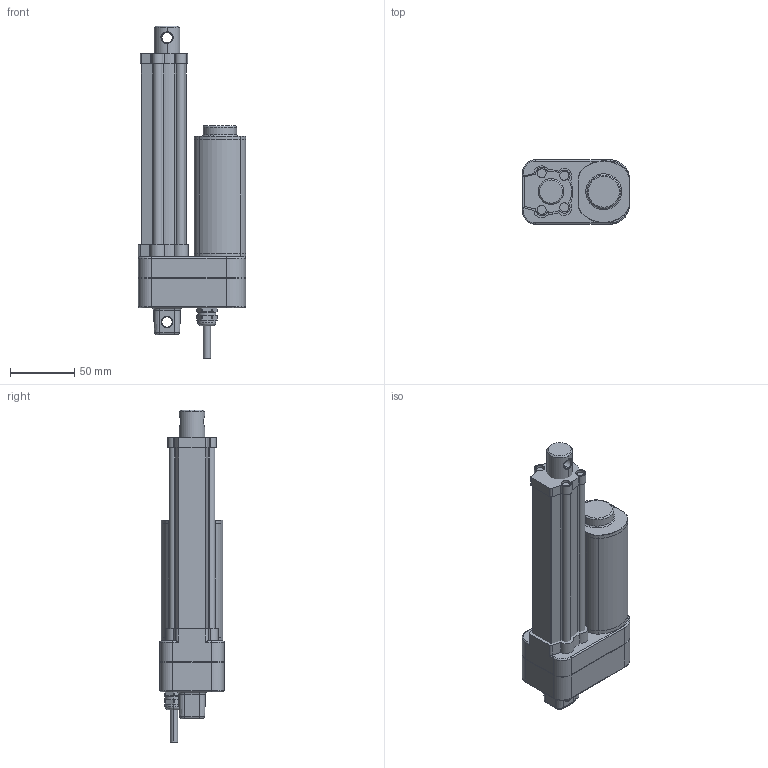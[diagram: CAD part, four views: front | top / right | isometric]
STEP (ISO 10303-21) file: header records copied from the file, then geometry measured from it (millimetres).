
FILE_DESCRIPTION((''),'2;1');
FILE_NAME('LINACT-10-100mm.stp','2022-05-13T13:44:48',('Linact'),('Linear Actuators South Africa'),'','','');
FILE_SCHEMA(('CONFIG_CONTROL_DESIGN'));
Length unit declared in the file: millimetre
Products named in the file (13): JC35W2QIANDUANGAI-0630_AF0_1_1; JC35W2JIKE-0630_AF0_1_1; JC35W2DIANJIDINGZI-0630_AF0_ASM_ASM; JC35W2HOUDUANGAI-0630_AF0_1_1; JC35W2DIANJI-0630_AF0_ASM_1_ASM_ASM; JC35W2SHANGKE-0630_AF0_52_1; JC35W2XIAKE-0630_AF0_24_1; FANGSHUIJIETOU_1_1; JC35W2-100-220-0630_ASM_13_ASM__ASM; W2WAIGUAN-0630_4; W2WAIGUANDUANGAI-0630_9; W2NEIGUAN-0630_3; JC35W5-50-160_ASM_1_ASM
Assembly tree (12 placements, depth 5):
  JC35W5-50-160_ASM_1_ASM
    JC35W2-100-220-0630_ASM_13_ASM__ASM
      JC35W2DIANJI-0630_AF0_ASM_1_ASM_ASM
        JC35W2QIANDUANGAI-0630_AF0_1_1
        JC35W2DIANJIDINGZI-0630_AF0_ASM_ASM
          JC35W2JIKE-0630_AF0_1_1
        JC35W2HOUDUANGAI-0630_AF0_1_1
      JC35W2SHANGKE-0630_AF0_52_1
      JC35W2XIAKE-0630_AF0_24_1
      FANGSHUIJIETOU_1_1
    W2WAIGUAN-0630_4
    W2WAIGUANDUANGAI-0630_9
    W2NEIGUAN-0630_3
Bounding box: 83.2 x 50 x 258 mm (x, y, z)
Volume: 521109 mm3; surface area: 86779 mm2
Topology: 9 solids, 9 shells, 285 faces, 689 edges, 432 vertices
Faces by surface type: cylinder 150, plane 85, torus 36, bspline 8, cone 6
Entity records: 9473 total; most frequent: CARTESIAN_POINT 2244, DIRECTION 1661, ORIENTED_EDGE 1378, EDGE_CURVE 689, AXIS2_PLACEMENT_3D 684, VERTEX_POINT 432, CIRCLE 374, EDGE_LOOP 299
